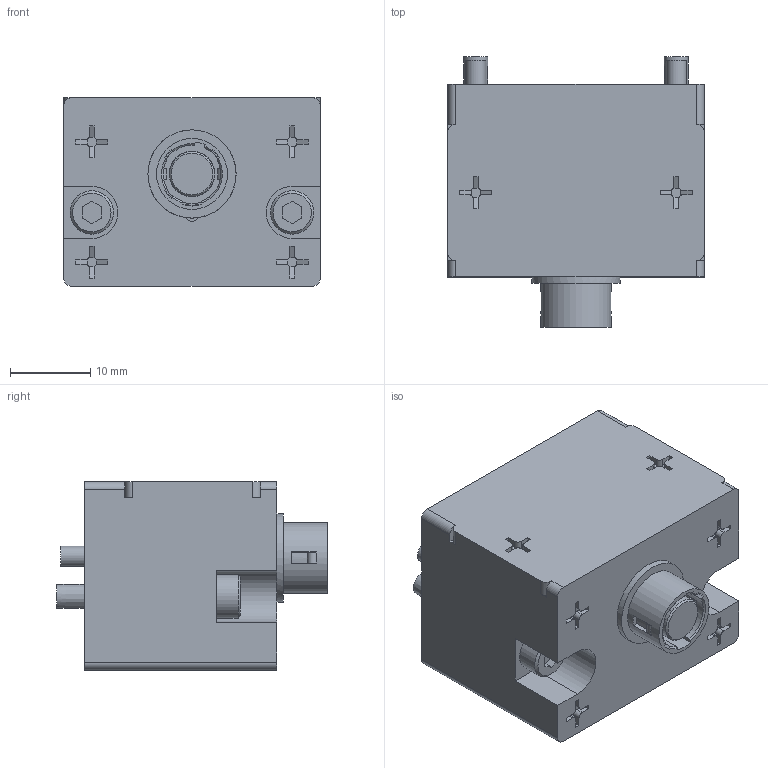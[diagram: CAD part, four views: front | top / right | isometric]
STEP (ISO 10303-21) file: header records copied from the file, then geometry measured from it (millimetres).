
FILE_DESCRIPTION(('STEP AP214'),'1');
FILE_NAME('KHF-12RS-D14C_ver1.stp','2026-04-24T02:53:16',(' '),(' '),'Spatial InterOp 3D',' ',' ');
FILE_SCHEMA(('AUTOMOTIVE_DESIGN { 1 0 10303 214 1 1 1 1 }'));
Length unit declared in the file: millimetre
Products named in the file (1): KHF-12RS-D14C_ver1
Bounding box: 32 x 33.8 x 23.5 mm (x, y, z)
Volume: 17739 mm3; surface area: 6282.9 mm2
Topology: 1 solids, 15 shells, 458 faces, 1154 edges, 751 vertices
Faces by surface type: plane 322, cylinder 114, cone 22
Full cylindrical faces by diameter (mm): 0.8 x2, 1.02 x4, 1.8 x4, 2 x4, 2.25 x6, 2.5 x4, 3 x8, 3.5 x2, 5.41 x2, 5.6 x1, 5.7 x1, 8 x1, 8.85 x1, 11 x1
Entity records: 18308 total; most frequent: CARTESIAN_POINT 2303, DIRECTION 2269, ORIENTED_EDGE 2138, EDGE_CURVE 1069, LINE 763, VECTOR 763, AXIS2_PLACEMENT_3D 753, STYLED_ITEM 749
